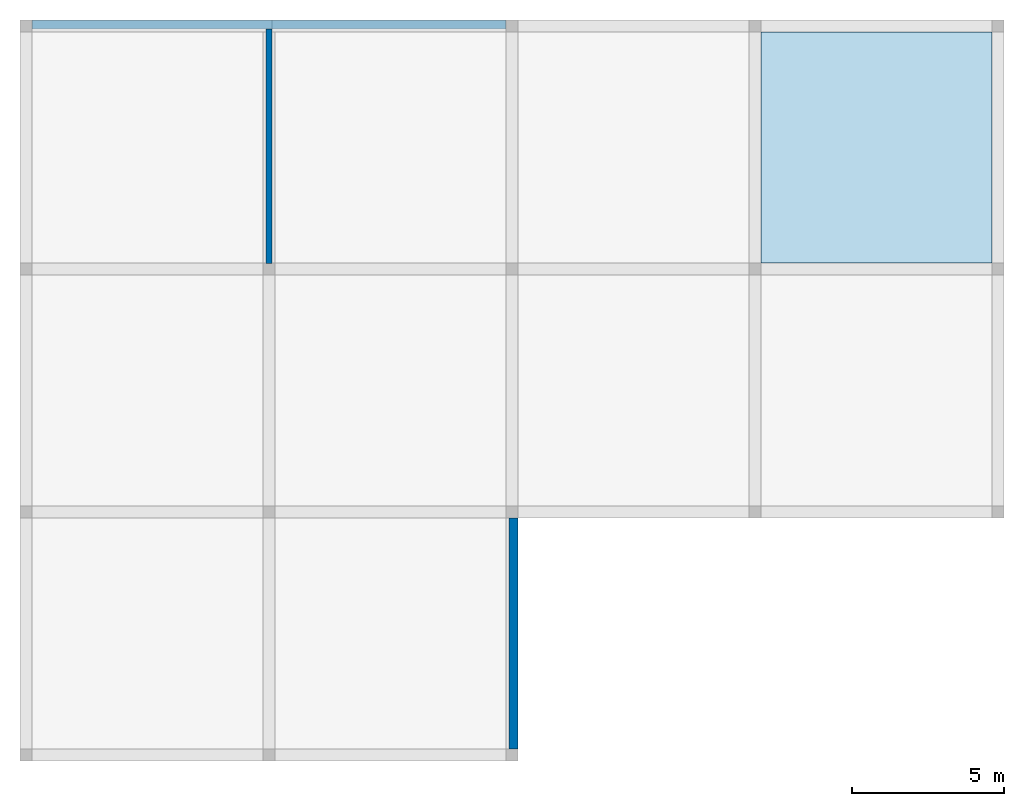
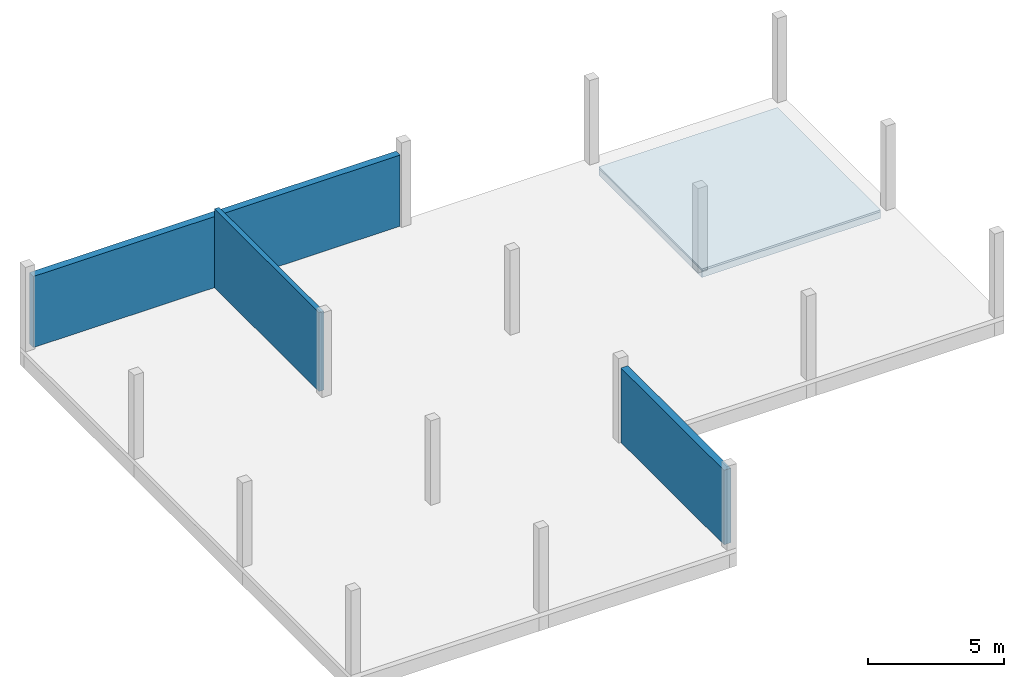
# One storey, part 3 of 3: 3 walls, 2 slabs.
"""IFC4X3_ADD2 building model written with IfcOpenShell, lengths in millimetres."""

from ifc_helpers import new_model, entity, si_unit, converted_unit, derived_unit, direction, frame, frame_2d, origin, place, context, subcontext, project, spatial, rectangle, extrude, material, layer, layer_set, layer_usage, type_object, element, save


model = new_model("IFC4X3_ADD2")

# Units and contexts
model_context = context("Model", 3, precision=0.01, world=origin(), true_north=direction((6.123233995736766e-17, 1.0)))
plan_context = context("Plan", 3, precision=0.01, world=origin(), true_north=direction((6.123233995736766e-17, 1.0)))
body_context = subcontext(model_context, "Body", "Model", "MODEL_VIEW")
ifc_project = project(units=[si_unit("LENGTHUNIT", "METRE", prefix="MILLI"), converted_unit("PLANEANGLEUNIT", "DEGREE", entity("IfcPlaneAngleMeasure", 0.017453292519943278), si_unit("PLANEANGLEUNIT", "RADIAN"), dimensions=[0, 0, 0, 0, 0, 0, 0]), si_unit("AREAUNIT", "SQUARE_METRE"), si_unit("VOLUMEUNIT", "CUBIC_METRE"), derived_unit("THERMALTRANSMITTANCEUNIT", [(si_unit("MASSUNIT", "GRAM", prefix="KILO"), 1), (si_unit("THERMODYNAMICTEMPERATUREUNIT", "KELVIN"), -1), (si_unit("TIMEUNIT", "SECOND"), -3)]), derived_unit("USERDEFINED", [(si_unit("MASSUNIT", "GRAM", prefix="KILO"), 1), (si_unit("THERMODYNAMICTEMPERATUREUNIT", "KELVIN"), -1), (si_unit("TIMEUNIT", "SECOND"), -2)]), derived_unit("THERMALRESISTANCEUNIT", [(si_unit("MASSUNIT", "GRAM", prefix="KILO"), -1), (si_unit("TIMEUNIT", "SECOND"), 3), (si_unit("THERMODYNAMICTEMPERATUREUNIT", "KELVIN"), 1)]), si_unit("PRESSUREUNIT", "PASCAL"), derived_unit("MASSDENSITYUNIT", [(si_unit("MASSUNIT", "GRAM", prefix="KILO"), 1), (si_unit("LENGTHUNIT", "METRE"), -3)]), derived_unit("MODULUSOFELASTICITYUNIT", [(si_unit("MASSUNIT", "GRAM", prefix="KILO"), 1), (si_unit("TIMEUNIT", "SECOND"), -2), (si_unit("LENGTHUNIT", "METRE"), -1)]), derived_unit("THERMALEXPANSIONCOEFFICIENTUNIT", [(si_unit("THERMODYNAMICTEMPERATUREUNIT", "KELVIN"), -1)]), derived_unit("VAPORPERMEABILITYUNIT", [(si_unit("LENGTHUNIT", "METRE"), -1), (si_unit("TIMEUNIT", "SECOND"), 1)]), derived_unit("USERDEFINED", [(si_unit("MASSUNIT", "GRAM", prefix="KILO"), 1), (si_unit("TIMEUNIT", "SECOND"), -3), (si_unit("LENGTHUNIT", "METRE"), 3), (si_unit("ELECTRICCURRENTUNIT", "AMPERE"), -2)]), derived_unit("SPECIFICHEATCAPACITYUNIT", [(si_unit("THERMODYNAMICTEMPERATUREUNIT", "KELVIN"), -1), (si_unit("TIMEUNIT", "SECOND"), -2), (si_unit("LENGTHUNIT", "METRE"), 2)]), derived_unit("THERMALCONDUCTANCEUNIT", [(si_unit("MASSUNIT", "GRAM", prefix="KILO"), 1), (si_unit("THERMODYNAMICTEMPERATUREUNIT", "KELVIN"), -1), (si_unit("TIMEUNIT", "SECOND"), -3), (si_unit("LENGTHUNIT", "METRE"), 1)])], contexts=[model_context, plan_context])

# Site, building, storey
site_placement = place(None, origin())
site = spatial("IfcSite", under=ifc_project, at=site_placement, Name="Default", CompositionType="ELEMENT")
building_placement = place(site_placement, origin())
building = spatial("IfcBuilding", under=site, at=building_placement, Name="Building Name", CompositionType="ELEMENT")
storey_placement = place(building_placement, origin())
storey = spatial("IfcBuildingStorey", under=building, at=storey_placement, Name="L1", CompositionType="ELEMENT", Elevation=0.0)

# Slabs
ifc_material_1 = material(Name="Concrete - Cast-in-Place Concrete", Category="Concrete")
ifc_layer_1 = layer(ifc_material_1, 80.0, Name="Concrete - Cast-in-Place Concrete", Category="Concrete")
ifc_layer_set_1 = layer_set([ifc_layer_1], Name="Floor:Blinding concrete 80mm")
ifc_layer_usage_1 = layer_usage(ifc_layer_set_1, "AXIS3", "POSITIVE", 0.0)
slab_type_1 = type_object("IfcSlabType", Name="Floor:Blinding concrete 80mm", PredefinedType="FLOOR", material=ifc_layer_set_1)
slab_1_placement = place(storey_placement, origin())
element("IfcSlab", 1, at=slab_1_placement, inside=storey, type_object=slab_type_1, material=ifc_layer_usage_1, Name="Floor:Blinding concrete 80mm", ObjectType="Floor:Blinding concrete 80mm", PredefinedType="FLOOR", context=body_context, shape_type="SweptSolid", body=[
    extrude(rectangle(XDim=7600.000000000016, YDim=7599.999999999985, at=frame_2d((-1.1368683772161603e-12, 1.1368683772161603e-12), x_axis=(1.0, 0.0))), frame((15032.048763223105, 8096.696870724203, -200.0), z_axis=(0.0, 0.0, -1.0), x_axis=(0.0, 1.0, 0.0)), (0.0, 0.0, 1.0), 80.00000000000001),
])
ifc_material_2 = material(Name="Gravel", Category="Misc")
ifc_layer_2 = layer(ifc_material_2, 300.0, Name="Gravel", Category="Misc")
ifc_layer_set_2 = layer_set([ifc_layer_2], Name="Floor:Gravel 300 mm")
ifc_layer_usage_2 = layer_usage(ifc_layer_set_2, "AXIS3", "POSITIVE", 0.0)
slab_type_2 = type_object("IfcSlabType", Name="Floor:Gravel 300 mm", PredefinedType="FLOOR", material=ifc_layer_set_2)
slab_2_placement = place(storey_placement, origin())
element("IfcSlab", 2, at=slab_2_placement, inside=storey, type_object=slab_type_2, material=ifc_layer_usage_2, Name="Floor:Gravel 300 mm", ObjectType="Floor:Gravel 300 mm", PredefinedType="FLOOR", context=body_context, shape_type="SweptSolid", body=[
    extrude(rectangle(XDim=7600.000000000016, YDim=7599.999999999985, at=frame_2d((-1.1368683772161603e-12, 1.1368683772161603e-12), x_axis=(1.0, 0.0))), frame((15032.048763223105, 8096.696870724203, -280.0), z_axis=(0.0, 0.0, -1.0), x_axis=(0.0, 1.0, 0.0)), (0.0, 0.0, 1.0), 300.0),
])

# Walls
ifc_material_3 = material(Name="Default Wall", Category="Miscellaneous")
ifc_layer_3 = layer(ifc_material_3, 300.0, Name="Layer", Category="Miscellaneous")
ifc_layer_set_3 = layer_set([ifc_layer_3], Name="Basic Wall:Generic - 300mm")
wall_type_1 = type_object("IfcWallType", Name="Basic Wall:Generic - 300mm", PredefinedType="STANDARD", material=ifc_layer_set_3)
wall_1_placement = place(storey_placement, frame((3082.0487632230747, -11703.303129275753, 0.0), z_axis=(0.0, 0.0, 1.0), x_axis=(0.0, 1.0, 0.0)))
element("IfcWall", 3, at=wall_1_placement, inside=storey, type_object=wall_type_1, material=ifc_layer_set_3, Name="Basic Wall:Generic - 300mm", ObjectType="Basic Wall:Generic - 300mm", PredefinedType="NOTDEFINED", context=body_context, shape_type="SweptSolid", body=[
    extrude(rectangle(XDim=7599.999999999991, YDim=300.0, at=frame_2d((3799.9999999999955, 2.2737367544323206e-13), x_axis=(-1.0, 0.0))), origin(), (0.0, 0.0, 1.0), 3350.0),
])
wall_2_placement = place(storey_placement, frame((-12767.951236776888, 12146.696870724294, 0.0)))
element("IfcWall", 4, at=wall_2_placement, inside=storey, type_object=wall_type_1, material=ifc_layer_set_3, Name="Basic Wall:Generic - 300mm", ObjectType="Basic Wall:Generic - 300mm", PredefinedType="NOTDEFINED", context=body_context, shape_type="SweptSolid", body=[
    extrude(rectangle(XDim=15600.000000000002, YDim=300.00000000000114, at=frame_2d((7800.000000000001, 1.0516032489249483e-12), x_axis=(-1.0, 0.0))), origin(), (0.0, 0.0, 1.0), 3200.0),
])
ifc_layer_4 = layer(ifc_material_3, 200.0, Name="Layer", Category="Miscellaneous")
ifc_layer_set_4 = layer_set([ifc_layer_4], Name="Basic Wall:Generic - 200mm")
wall_type_2 = type_object("IfcWallType", Name="Basic Wall:Generic - 200mm", PredefinedType="STANDARD", material=ifc_layer_set_4)
wall_3_placement = place(storey_placement, frame((-4967.951236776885, 11996.696870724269, 0.0), z_axis=(0.0, 0.0, 1.0), x_axis=(0.0, -1.0, 0.0)))
element("IfcWall", 5, at=wall_3_placement, inside=storey, type_object=wall_type_2, material=ifc_layer_set_4, Name="Basic Wall:Generic - 200mm", ObjectType="Basic Wall:Generic - 200mm", PredefinedType="NOTDEFINED", context=body_context, shape_type="SweptSolid", body=[
    extrude(rectangle(XDim=7709.999999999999, YDim=200.00000000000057, at=frame_2d((3854.9999999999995, 3.552713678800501e-14), x_axis=(-1.0, 0.0))), origin(), (0.0, 0.0, 1.0), 3550.000000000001),
])

save(model, "model.ifc")
